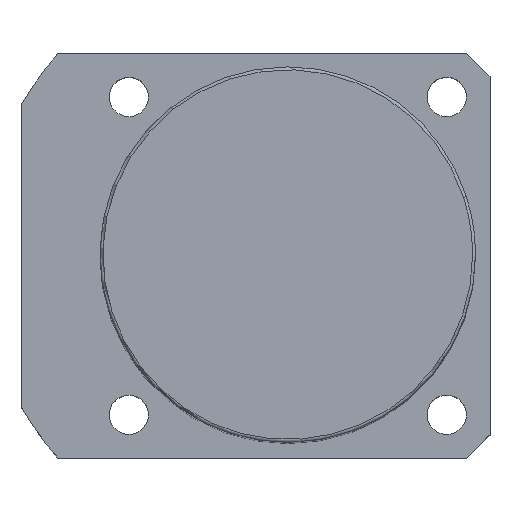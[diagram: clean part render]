
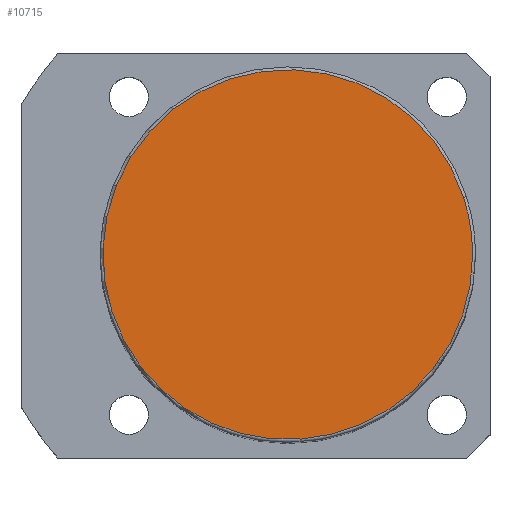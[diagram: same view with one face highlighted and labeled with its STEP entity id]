
A CAD part, top view. The second image highlights one B-rep face of the part: STEP entity #10715.
In plain terms, the highlighted planar face has unit normal (0, 0, 1).
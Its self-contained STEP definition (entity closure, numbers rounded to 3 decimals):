
#10681=CARTESIAN_POINT('',(32.0,0.0,136.0));
#10682=VERTEX_POINT('',#10681);
#10683=CARTESIAN_POINT('',(30.434,9.889,136.0));
#10684=VERTEX_POINT('',#10683);
#10685=CARTESIAN_POINT('',(0.0,0.0,136.0));
#10686=DIRECTION('',(0.0,0.0,1.0));
#10687=DIRECTION('',(1.0,0.0,0.0));
#10688=AXIS2_PLACEMENT_3D('',#10685,#10686,#10687);
#10689=CIRCLE('',#10688,32.0);
#10690=EDGE_CURVE('no 4840',#10682,#10684,#10689,.T.);
#10691=ORIENTED_EDGE('',*,*,#10690,.T.);
#10692=CARTESIAN_POINT('',(-30.434,-9.889,136.0));
#10693=VERTEX_POINT('',#10692);
#10694=CARTESIAN_POINT('',(0.0,0.0,136.0));
#10695=DIRECTION('',(0.0,0.0,1.0));
#10696=DIRECTION('',(1.0,0.0,0.0));
#10697=AXIS2_PLACEMENT_3D('',#10694,#10695,#10696);
#10698=CIRCLE('',#10697,32.0);
#10699=EDGE_CURVE('no 4846',#10684,#10693,#10698,.T.);
#10700=ORIENTED_EDGE('',*,*,#10699,.T.);
#10701=CARTESIAN_POINT('',(0.0,0.0,136.0));
#10702=DIRECTION('',(0.0,0.0,1.0));
#10703=DIRECTION('',(1.0,0.0,0.0));
#10704=AXIS2_PLACEMENT_3D('',#10701,#10702,#10703);
#10705=CIRCLE('',#10704,32.0);
#10706=EDGE_CURVE('no 4850',#10693,#10682,#10705,.T.);
#10707=ORIENTED_EDGE('',*,*,#10706,.T.);
#10708=EDGE_LOOP('',(#10691,#10700,#10707));
#10709=FACE_OUTER_BOUND('',#10708,.T.);
#10710=CARTESIAN_POINT('',(0.0,0.0,136.0));
#10711=DIRECTION('',(0.0,0.0,1.0));
#10712=DIRECTION('',(1.0,0.0,0.0));
#10713=AXIS2_PLACEMENT_3D('',#10710,#10711,#10712);
#10714=PLANE('',#10713);
#10715=ADVANCED_FACE('no 4831',(#10709),#10714,.T.);
